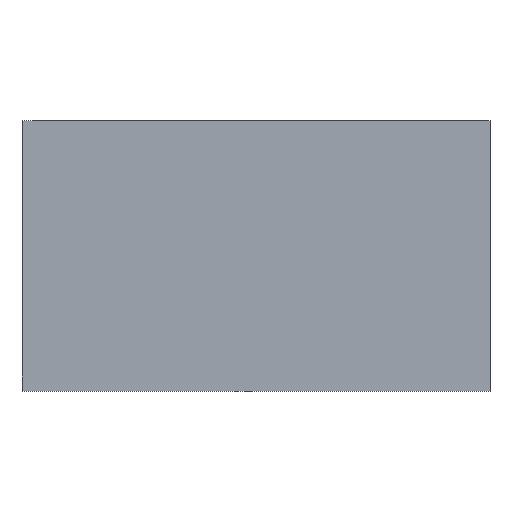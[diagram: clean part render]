
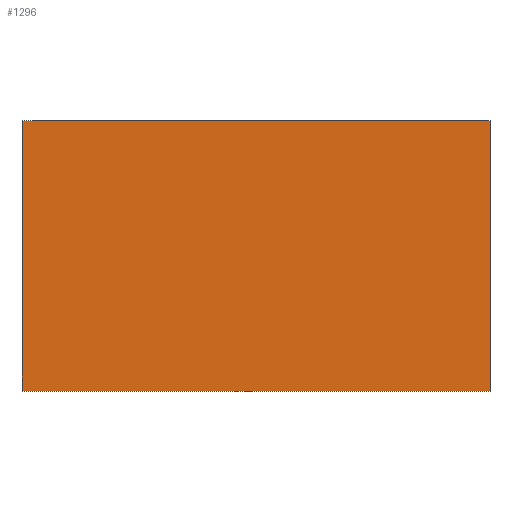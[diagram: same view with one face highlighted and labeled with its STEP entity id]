
A CAD part, top view. The second image highlights one B-rep face of the part: STEP entity #1296.
In plain terms, the highlighted planar face has unit normal (0, 0, 1).
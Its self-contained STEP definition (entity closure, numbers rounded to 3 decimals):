
#982 = VERTEX_POINT('',#983);
#983 = CARTESIAN_POINT('',(-70.175,-40.5,9.75));
#990 = PLANE('',#991);
#991 = AXIS2_PLACEMENT_3D('',#992,#993,#994);
#992 = CARTESIAN_POINT('',(-70.175,-40.5,9.25));
#993 = DIRECTION('',(1.,0.,-0.));
#994 = DIRECTION('',(0.,0.,1.));
#1002 = PLANE('',#1003);
#1003 = AXIS2_PLACEMENT_3D('',#1004,#1005,#1006);
#1004 = CARTESIAN_POINT('',(-70.175,-40.5,9.25));
#1005 = DIRECTION('',(-0.,1.,0.));
#1006 = DIRECTION('',(0.,0.,1.));
#1043 = VERTEX_POINT('',#1044);
#1044 = CARTESIAN_POINT('',(-70.175,40.5,9.75));
#1058 = PLANE('',#1059);
#1059 = AXIS2_PLACEMENT_3D('',#1060,#1061,#1062);
#1060 = CARTESIAN_POINT('',(-70.175,40.5,9.25));
#1061 = DIRECTION('',(-0.,1.,0.));
#1062 = DIRECTION('',(0.,0.,1.));
#1070 = EDGE_CURVE('',#982,#1043,#1071,.T.);
#1071 = SURFACE_CURVE('',#1072,(#1076,#1083),.PCURVE_S1.);
#1072 = LINE('',#1073,#1074);
#1073 = CARTESIAN_POINT('',(-70.175,-40.5,9.75));
#1074 = VECTOR('',#1075,1.);
#1075 = DIRECTION('',(-0.,1.,0.));
#1076 = PCURVE('',#990,#1077);
#1077 = DEFINITIONAL_REPRESENTATION('',(#1078),#1082);
#1078 = LINE('',#1079,#1080);
#1079 = CARTESIAN_POINT('',(0.5,0.));
#1080 = VECTOR('',#1081,1.);
#1081 = DIRECTION('',(0.,-1.));
#1082 = ( GEOMETRIC_REPRESENTATION_CONTEXT(2) 
PARAMETRIC_REPRESENTATION_CONTEXT() REPRESENTATION_CONTEXT('2D SPACE',''
  ) );
#1083 = PCURVE('',#1084,#1089);
#1084 = PLANE('',#1085);
#1085 = AXIS2_PLACEMENT_3D('',#1086,#1087,#1088);
#1086 = CARTESIAN_POINT('',(-70.175,-40.5,9.75));
#1087 = DIRECTION('',(0.,0.,1.));
#1088 = DIRECTION('',(1.,0.,-0.));
#1089 = DEFINITIONAL_REPRESENTATION('',(#1090),#1094);
#1090 = LINE('',#1091,#1092);
#1091 = CARTESIAN_POINT('',(0.,0.));
#1092 = VECTOR('',#1093,1.);
#1093 = DIRECTION('',(0.,1.));
#1094 = ( GEOMETRIC_REPRESENTATION_CONTEXT(2) 
PARAMETRIC_REPRESENTATION_CONTEXT() REPRESENTATION_CONTEXT('2D SPACE',''
  ) );
#1102 = VERTEX_POINT('',#1103);
#1103 = CARTESIAN_POINT('',(70.175,-40.5,9.75));
#1110 = PLANE('',#1111);
#1111 = AXIS2_PLACEMENT_3D('',#1112,#1113,#1114);
#1112 = CARTESIAN_POINT('',(70.175,-40.5,9.25));
#1113 = DIRECTION('',(1.,0.,-0.));
#1114 = DIRECTION('',(0.,0.,1.));
#1153 = VERTEX_POINT('',#1154);
#1154 = CARTESIAN_POINT('',(70.175,40.5,9.75));
#1175 = EDGE_CURVE('',#1102,#1153,#1176,.T.);
#1176 = SURFACE_CURVE('',#1177,(#1181,#1188),.PCURVE_S1.);
#1177 = LINE('',#1178,#1179);
#1178 = CARTESIAN_POINT('',(70.175,-40.5,9.75));
#1179 = VECTOR('',#1180,1.);
#1180 = DIRECTION('',(-0.,1.,0.));
#1181 = PCURVE('',#1110,#1182);
#1182 = DEFINITIONAL_REPRESENTATION('',(#1183),#1187);
#1183 = LINE('',#1184,#1185);
#1184 = CARTESIAN_POINT('',(0.5,0.));
#1185 = VECTOR('',#1186,1.);
#1186 = DIRECTION('',(0.,-1.));
#1187 = ( GEOMETRIC_REPRESENTATION_CONTEXT(2) 
PARAMETRIC_REPRESENTATION_CONTEXT() REPRESENTATION_CONTEXT('2D SPACE',''
  ) );
#1188 = PCURVE('',#1084,#1189);
#1189 = DEFINITIONAL_REPRESENTATION('',(#1190),#1194);
#1190 = LINE('',#1191,#1192);
#1191 = CARTESIAN_POINT('',(140.35,0.));
#1192 = VECTOR('',#1193,1.);
#1193 = DIRECTION('',(0.,1.));
#1194 = ( GEOMETRIC_REPRESENTATION_CONTEXT(2) 
PARAMETRIC_REPRESENTATION_CONTEXT() REPRESENTATION_CONTEXT('2D SPACE',''
  ) );
#1221 = EDGE_CURVE('',#982,#1102,#1222,.T.);
#1222 = SURFACE_CURVE('',#1223,(#1227,#1234),.PCURVE_S1.);
#1223 = LINE('',#1224,#1225);
#1224 = CARTESIAN_POINT('',(-70.175,-40.5,9.75));
#1225 = VECTOR('',#1226,1.);
#1226 = DIRECTION('',(1.,0.,-0.));
#1227 = PCURVE('',#1002,#1228);
#1228 = DEFINITIONAL_REPRESENTATION('',(#1229),#1233);
#1229 = LINE('',#1230,#1231);
#1230 = CARTESIAN_POINT('',(0.5,0.));
#1231 = VECTOR('',#1232,1.);
#1232 = DIRECTION('',(0.,1.));
#1233 = ( GEOMETRIC_REPRESENTATION_CONTEXT(2) 
PARAMETRIC_REPRESENTATION_CONTEXT() REPRESENTATION_CONTEXT('2D SPACE',''
  ) );
#1234 = PCURVE('',#1084,#1235);
#1235 = DEFINITIONAL_REPRESENTATION('',(#1236),#1240);
#1236 = LINE('',#1237,#1238);
#1237 = CARTESIAN_POINT('',(0.,0.));
#1238 = VECTOR('',#1239,1.);
#1239 = DIRECTION('',(1.,0.));
#1240 = ( GEOMETRIC_REPRESENTATION_CONTEXT(2) 
PARAMETRIC_REPRESENTATION_CONTEXT() REPRESENTATION_CONTEXT('2D SPACE',''
  ) );
#1268 = EDGE_CURVE('',#1043,#1153,#1269,.T.);
#1269 = SURFACE_CURVE('',#1270,(#1274,#1281),.PCURVE_S1.);
#1270 = LINE('',#1271,#1272);
#1271 = CARTESIAN_POINT('',(-70.175,40.5,9.75));
#1272 = VECTOR('',#1273,1.);
#1273 = DIRECTION('',(1.,0.,-0.));
#1274 = PCURVE('',#1058,#1275);
#1275 = DEFINITIONAL_REPRESENTATION('',(#1276),#1280);
#1276 = LINE('',#1277,#1278);
#1277 = CARTESIAN_POINT('',(0.5,0.));
#1278 = VECTOR('',#1279,1.);
#1279 = DIRECTION('',(0.,1.));
#1280 = ( GEOMETRIC_REPRESENTATION_CONTEXT(2) 
PARAMETRIC_REPRESENTATION_CONTEXT() REPRESENTATION_CONTEXT('2D SPACE',''
  ) );
#1281 = PCURVE('',#1084,#1282);
#1282 = DEFINITIONAL_REPRESENTATION('',(#1283),#1287);
#1283 = LINE('',#1284,#1285);
#1284 = CARTESIAN_POINT('',(0.,81.));
#1285 = VECTOR('',#1286,1.);
#1286 = DIRECTION('',(1.,0.));
#1287 = ( GEOMETRIC_REPRESENTATION_CONTEXT(2) 
PARAMETRIC_REPRESENTATION_CONTEXT() REPRESENTATION_CONTEXT('2D SPACE',''
  ) );
#1296 = ADVANCED_FACE('',(#1297),#1084,.T.);
#1297 = FACE_BOUND('',#1298,.T.);
#1298 = EDGE_LOOP('',(#1299,#1300,#1301,#1302));
#1299 = ORIENTED_EDGE('',*,*,#1070,.F.);
#1300 = ORIENTED_EDGE('',*,*,#1221,.T.);
#1301 = ORIENTED_EDGE('',*,*,#1175,.T.);
#1302 = ORIENTED_EDGE('',*,*,#1268,.F.);
